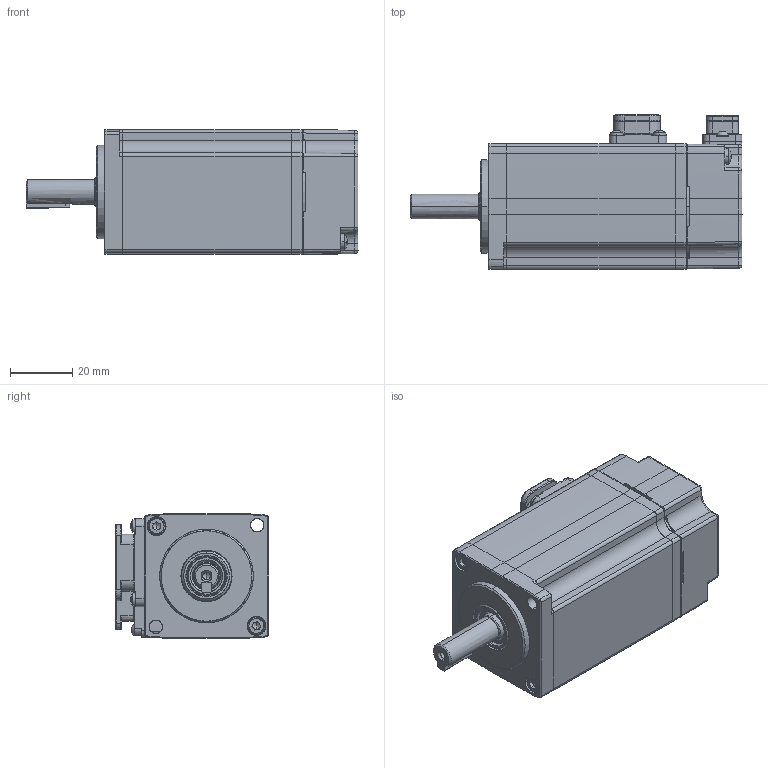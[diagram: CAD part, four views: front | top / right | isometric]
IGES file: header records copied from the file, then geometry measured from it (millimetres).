
Start section: SolidWorks IGES file using analytic representation for surfaces
Global section: file name: Z:\Products\Servo\08.2024\UNITRONICS\B5\UMM-0001BA-B5.IGS; native system: SolidWorks 2022; preprocessor: SolidWorks 2022; author: OfirZ; date: 240820.124056; units: millimetre
Bounding box: 106.4 x 49.3 x 40 mm (x, y, z)
Surface area: 44182.8 mm2 (no closed solid volume)
Topology: 0 solids, 0 shells, 2080 faces, 19022 edges, 18977 vertices
Faces by surface type: bspline 1270, revolution 810
